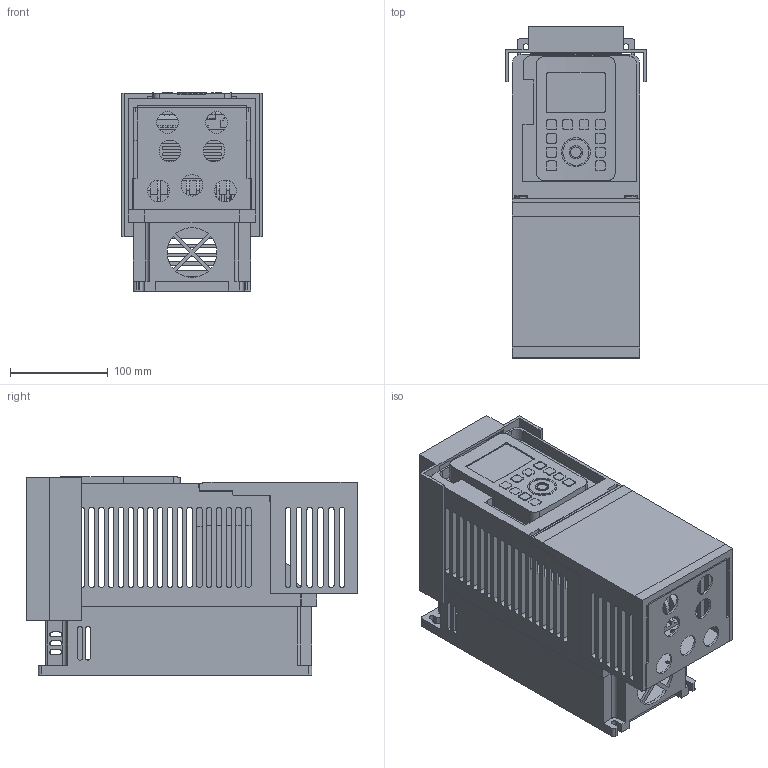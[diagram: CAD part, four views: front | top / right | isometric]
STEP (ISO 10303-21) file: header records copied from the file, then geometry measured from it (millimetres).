
FILE_DESCRIPTION((''),'2;1');
FILE_NAME('VFAS3_SA1_ASM','2016-05-09T',('SESA57331'),('Schneider-Electric'),'PRO/ENGINEER BY PARAMETRIC TECHNOLOGY CORPORATION, 2012420','PRO/ENGINEER BY PARAMETRIC TECHNOLOGY CORPORATION, 2012420','');
FILE_SCHEMA(('CONFIG_CONTROL_DESIGN'));
Length unit declared in the file: millimetre
Products named in the file (11): PRT0001; PRT0002; PRT0003; PRT0004; PRT0005; PRT0006; ASM0003_ASM; PRT0007; PRT0008; PRT0009; VFAS3_SA1_ASM
Assembly tree (10 placements, depth 3):
  VFAS3_SA1_ASM
    PRT0001
    ASM0003_ASM
      PRT0002
      PRT0003
      PRT0004
      PRT0005
      PRT0006
    PRT0007
    PRT0008
    PRT0009
Bounding box: 143.84 x 338.58 x 202.23 mm (x, y, z)
Volume: 2905769 mm3; surface area: 725489.7 mm2
Topology: 9 solids, 9 shells, 1158 faces, 3529 edges, 2425 vertices
Faces by surface type: plane 813, cylinder 317, extrusion 28
Entity records: 41776 total; most frequent: CARTESIAN_POINT 8723, ORIENTED_EDGE 7058, DIRECTION 6569, EDGE_CURVE 3529, VECTOR 2505, LINE 2477, VERTEX_POINT 2425, AXIS2_PLACEMENT_3D 2032
